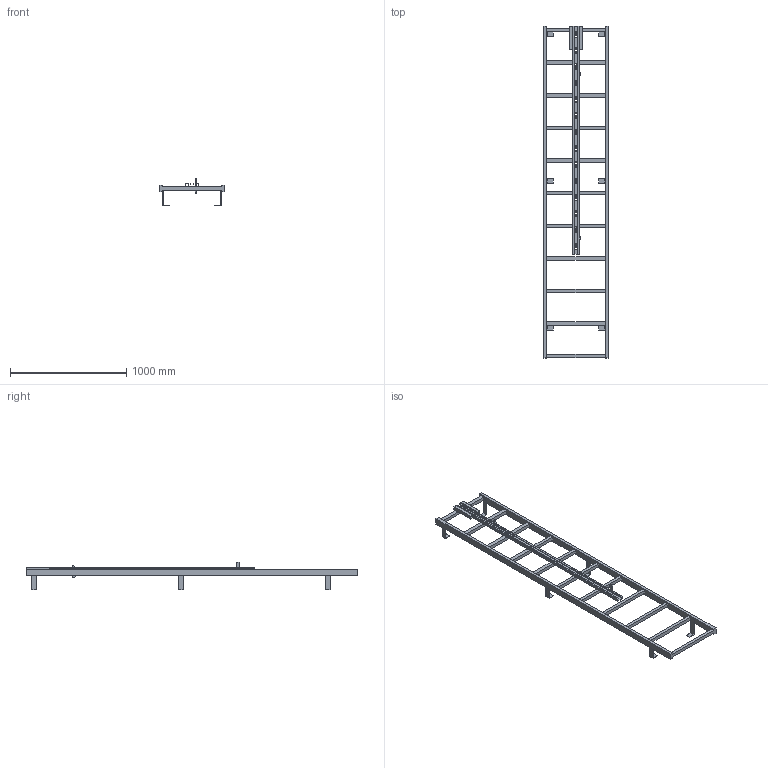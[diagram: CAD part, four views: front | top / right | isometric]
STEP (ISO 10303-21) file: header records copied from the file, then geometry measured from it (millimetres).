
FILE_DESCRIPTION((''),'2;1');
FILE_NAME('52330190','2024-12-03T14:46:03',('wep'),('HUBER SE'),'CREO PARAMETRIC BY PTC INC, 2022162','CREO PARAMETRIC BY PTC INC, 2022162','');
FILE_SCHEMA(('AUTOMOTIVE_DESIGN { 1 0 10303 214 1 1 1 1 }'));
Length unit declared in the file: millimetre
Products named in the file (1): 52330190
Bounding box: 550 x 2850 x 239 mm (x, y, z)
Volume: 13503844 mm3; surface area: 2252122.5 mm2
Topology: 2 solids, 2 shells, 208 faces, 598 edges, 390 vertices
Faces by surface type: plane 208
Entity records: 7305 total; most frequent: CARTESIAN_POINT 1198, ORIENTED_EDGE 1196, DIRECTION 1014, VECTOR 598, LINE 598, EDGE_CURVE 598, VERTEX_POINT 390, EDGE_LOOP 256
